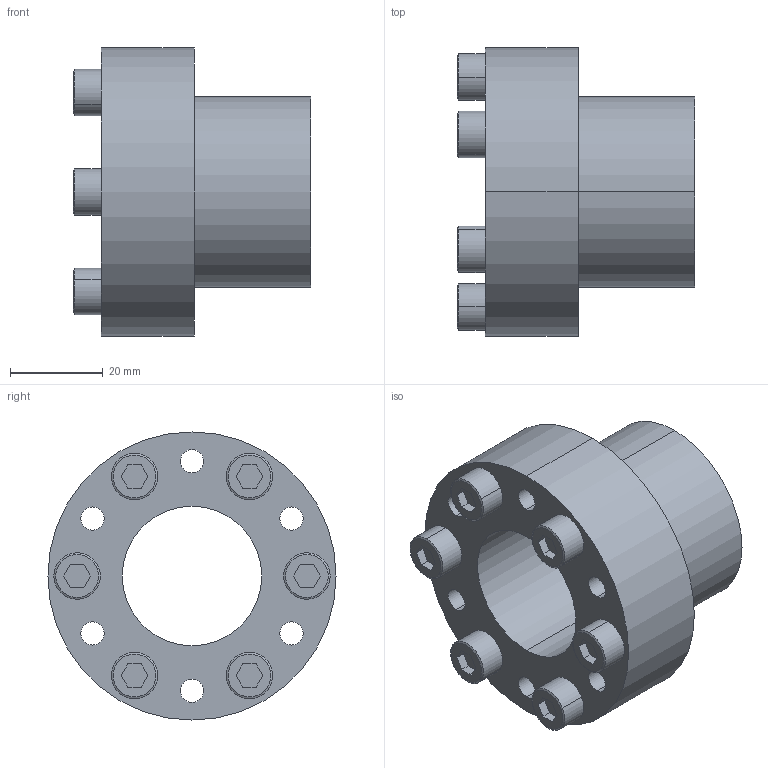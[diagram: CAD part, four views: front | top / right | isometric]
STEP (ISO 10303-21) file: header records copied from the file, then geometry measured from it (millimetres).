
FILE_DESCRIPTION (( 'STEP AP203' ), '1' );
FILE_NAME ('SB-30.STEP', '2009-09-29T15:49:58', ( 'USER' ), ( 'HOME' ), 'SwSTEP 2.0', 'SolidWorks 2007', '' );
FILE_SCHEMA (( 'CONFIG_CONTROL_DESIGN' ));
Length unit declared in the file: millimetre
Products named in the file (1): SB-30
Bounding box: 51 x 62 x 62 mm (x, y, z)
Volume: 62311 mm3; surface area: 23454.8 mm2
Topology: 7 solids, 7 shells, 129 faces, 294 edges, 192 vertices
Faces by surface type: plane 63, cylinder 54, cone 12
Entity records: 3769 total; most frequent: DIRECTION 674, CARTESIAN_POINT 616, ORIENTED_EDGE 588, EDGE_CURVE 294, AXIS2_PLACEMENT_3D 250, VERTEX_POINT 192, VECTOR 174, LINE 174
